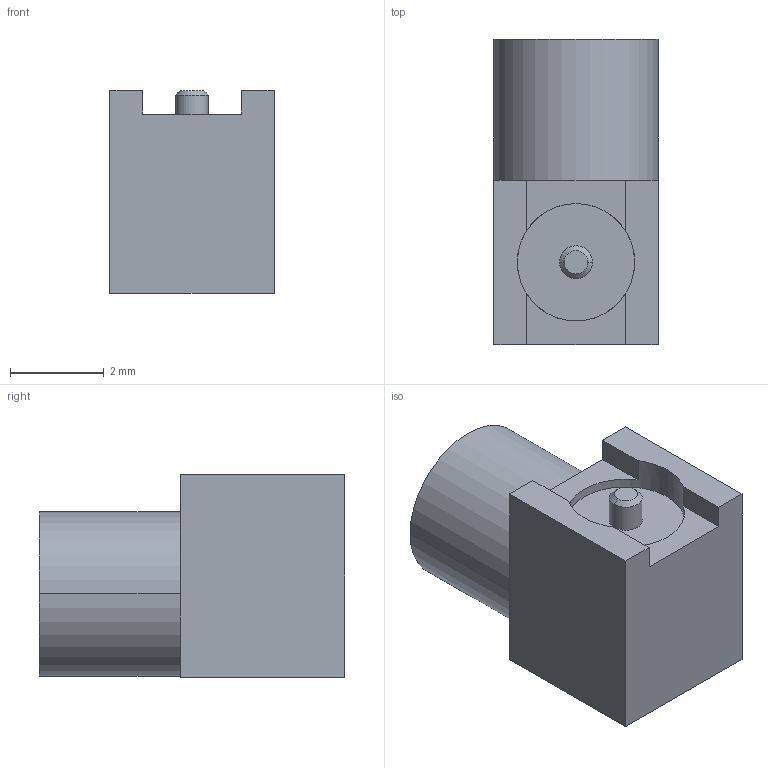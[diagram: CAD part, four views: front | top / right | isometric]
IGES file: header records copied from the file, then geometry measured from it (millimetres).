
Start section:  PTC IGES file: gps-ant-ext-25109_prt.igs
Global section: file name: gps-ant-ext-25109_prt.igs; native system: Pro/ENGINEER by Parametric Technology Corporation; preprocessor: 2006170; author: GRA; organization: Unknown; date: 20080630.105141; units: millimetre
Bounding box: 3.5 x 6.5 x 4.32 mm (x, y, z)
Surface area: 122.4 mm2 (no closed solid volume)
Topology: 0 solids, 0 shells, 25 faces, 120 edges, 120 vertices
Faces by surface type: bspline 17, revolution 8
